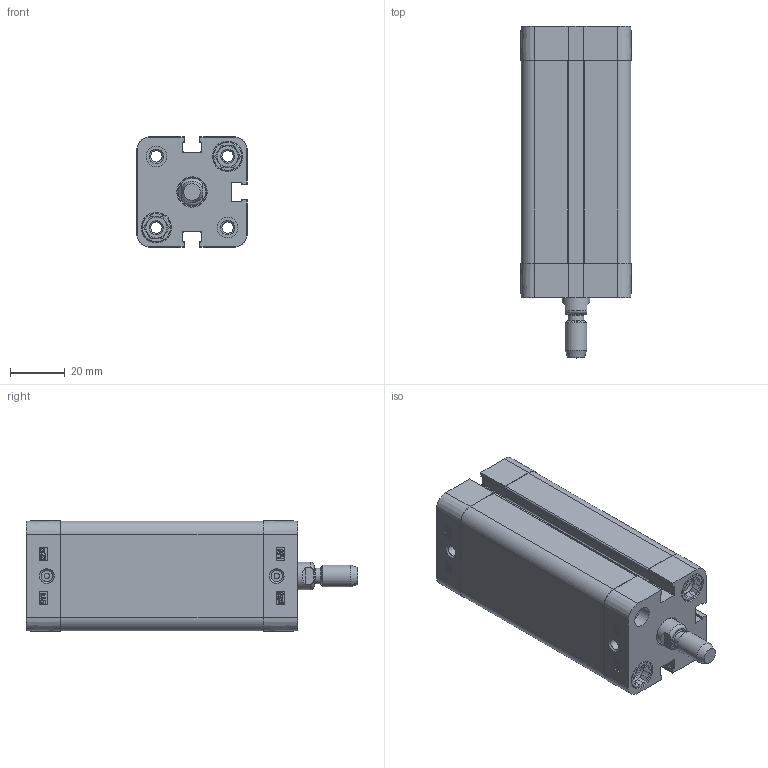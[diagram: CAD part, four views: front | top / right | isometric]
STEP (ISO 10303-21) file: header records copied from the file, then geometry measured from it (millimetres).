
FILE_DESCRIPTION((''),'2;1');
FILE_NAME('T:\Archivio Inventor\- CATALOGHI 2012\SERIE P - NUOVA\PDM\PDM025\PDM025.---.GS.M\PDM025.060.GS.M.stp','2013-01-31T08:07:20',('Administrator'),(''),'Autodesk Inventor 2012','Autodesk Inventor 2012','');
FILE_SCHEMA(('CONFIG_CONTROL_DESIGN'));
Length unit declared in the file: millimetre
Products named in the file (1): PDM025.060.GS.M
Bounding box: 40.3 x 121 x 40.3 mm (x, y, z)
Volume: 85221.9 mm3; surface area: 43303 mm2
Topology: 1 solids, 3 shells, 596 faces, 1552 edges, 1017 vertices
Faces by surface type: plane 312, cylinder 130, bspline 92, cone 50, torus 12
Full cylindrical faces by diameter (mm): 2 x2, 4.134 x10, 5.8 x1, 7.5 x4, 7.55 x2, 8 x9, 9 x1, 10 x1, 10.5 x1, 10.8 x4, 11.1 x4, 25 x1, 27.3 x1, 27.5 x1
Entity records: 18782 total; most frequent: CARTESIAN_POINT 4306, ORIENTED_EDGE 2888, DIRECTION 2606, EDGE_CURVE 1444, VERTEX_POINT 1002, VECTOR 898, LINE 898, AXIS2_PLACEMENT_3D 854
